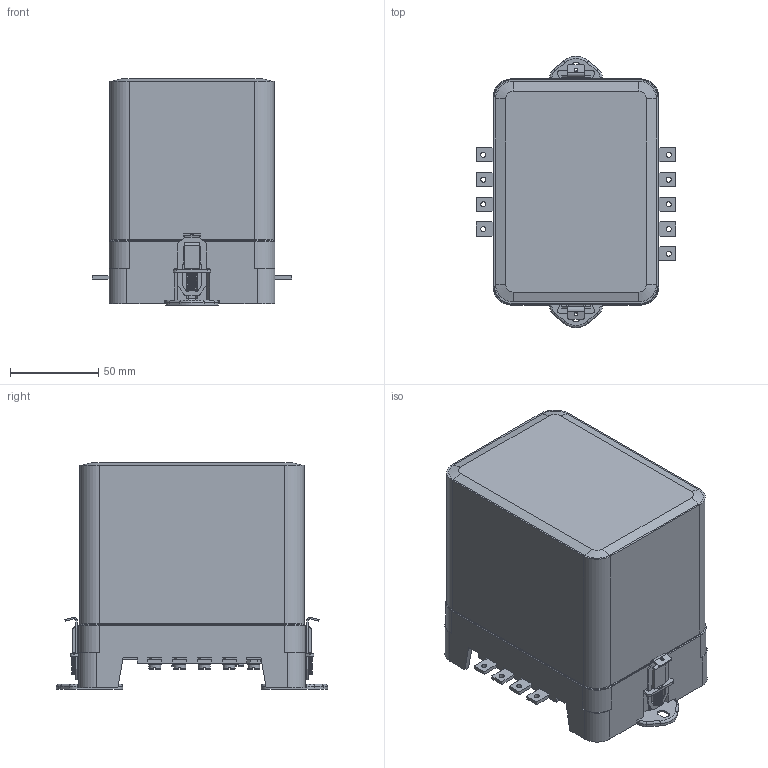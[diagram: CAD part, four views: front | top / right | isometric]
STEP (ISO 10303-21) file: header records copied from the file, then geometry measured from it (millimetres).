
FILE_DESCRIPTION(('STEP AP214'), '1');
FILE_NAME('ÐÂ215, ÐÂ218, ÐÂ225, ÐÂ228, ÐÂ235, ÐÂ238, ÐÂ245, ÐÂ248 ï.ï', '', ('UNSPECIFIED'), ('UNSPECIFIED'), 'ASCON STEP Converter 1.3', 'ASCON Math Kernel', '');
FILE_SCHEMA(('AUTOMOTIVE_DESIGN { 1 0 10303 214 3 1 1}'));
Length unit declared in the file: millimetre
Bounding box: 113 x 153.6 x 128.3 mm (x, y, z)
Volume: 228049.3 mm3; surface area: 162202.3 mm2
Topology: 2 solids, 2 shells, 1348 faces, 3529 edges, 2182 vertices
Faces by surface type: plane 767, cylinder 379, torus 128, cone 37, sphere 31, bspline 6
Full cylindrical faces by diameter (mm): 2 x2, 2.917 x9, 3.3 x9, 3.5 x2, 4 x21, 4.3 x12, 4.5 x3, 5.5 x16, 8 x3
Entity records: 60344 total; most frequent: CARTESIAN_POINT 16650, DIRECTION 6874, ORIENTED_EDGE 6736, EDGE_CURVE 3368, AXIS2_PLACEMENT_3D 2394, VERTEX_POINT 2176, LINE 2086, VECTOR 2086
